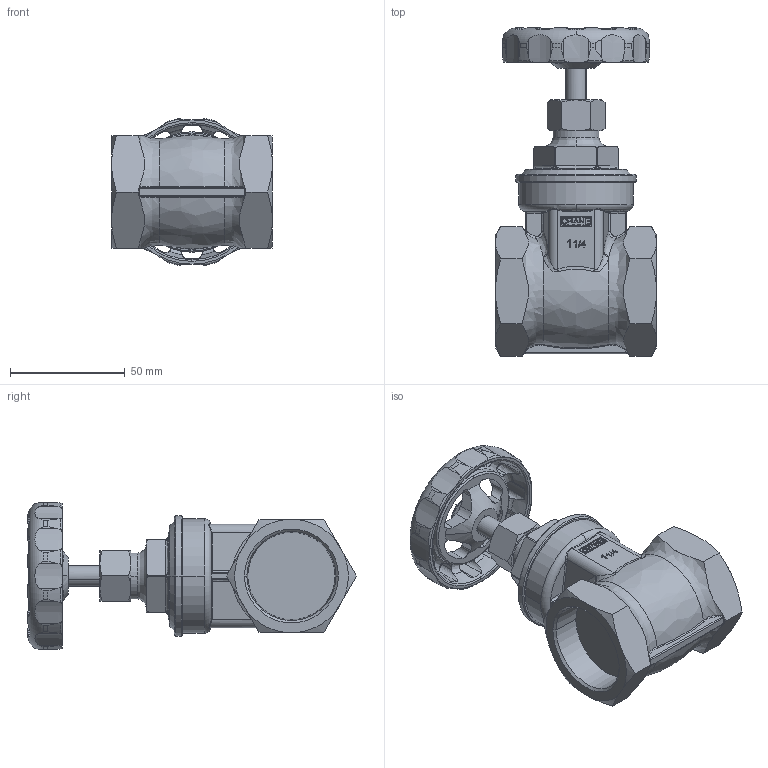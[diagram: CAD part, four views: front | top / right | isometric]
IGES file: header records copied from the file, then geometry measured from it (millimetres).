
Global section: file name: No Iges File Name specified; native system: AutoDesk Inventor R12.0; preprocessor: AutoDesk Inventor Iges Exporter R12.0; date: 20110311.103623; units: millimetre
Bounding box: 69.9 x 143.29 x 63.82 mm (x, y, z)
Volume: 195031.9 mm3; surface area: 40640.2 mm2
Topology: 1 solids, 1 shells, 754 faces, 2148 edges, 1397 vertices
Faces by surface type: plane 316, bspline 166, revolution 130, cylinder 78, cone 44, torus 20
